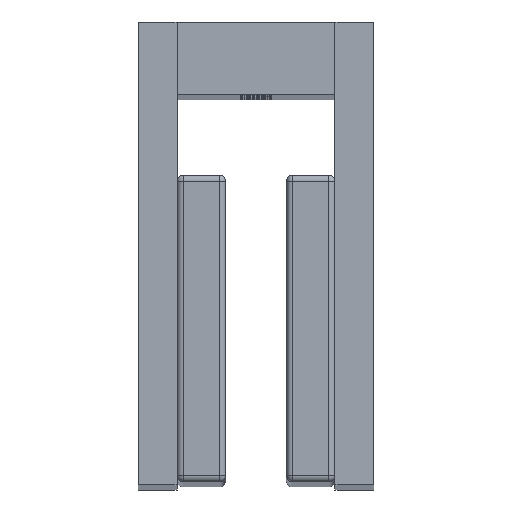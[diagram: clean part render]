
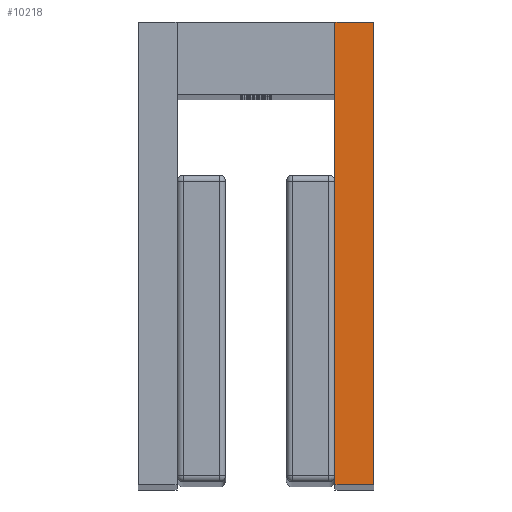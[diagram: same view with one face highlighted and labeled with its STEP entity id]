
A CAD part, top view. The second image highlights one B-rep face of the part: STEP entity #10218.
In plain terms, the highlighted planar face has unit normal (0, 0, 1).
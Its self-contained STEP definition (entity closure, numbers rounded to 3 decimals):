
#517 = CARTESIAN_POINT ( 'NONE',  ( 13., -70.2, 0. ) ) ;
#566 = CARTESIAN_POINT ( 'NONE',  ( 19.35, 6., 0. ) ) ;
#1757 = VERTEX_POINT ( 'NONE', #3181 ) ;
#3181 = CARTESIAN_POINT ( 'NONE',  ( 19.35, 6., 0. ) ) ;
#3620 = EDGE_CURVE ( 'Defeatured_0_2+Defeatured_0_37+Defeatured_0_3+Defeatured_0_0', #34386, #22645, #31456, .T. ) ;
#4752 = CARTESIAN_POINT ( 'NONE',  ( 19.35, -70.2, 0. ) ) ;
#5704 = CARTESIAN_POINT ( 'NONE',  ( 13., -70.2, 0. ) ) ;
#7183 = DIRECTION ( 'NONE',  ( 0., -1., 0. ) ) ;
#8361 = LINE ( 'NONE', #14290, #26243 ) ;
#9592 = DIRECTION ( 'NONE',  ( -1., 0., 0. ) ) ;
#10151 = LINE ( 'NONE', #566, #37608 ) ;
#10218 = ADVANCED_FACE ( 'Defeatured_0_2', ( #10630 ), #37916, .F. ) ;
#10402 = CARTESIAN_POINT ( 'NONE',  ( 13., -6., 0. ) ) ;
#10532 = AXIS2_PLACEMENT_3D ( 'NONE', #4752, #34537, #34169 ) ;
#10630 = FACE_OUTER_BOUND ( 'NONE', #34298, .T. ) ;
#11131 = ORIENTED_EDGE ( 'NONE', *, *, #28385, .F. ) ;
#11785 = VERTEX_POINT ( 'NONE', #21515 ) ;
#14290 = CARTESIAN_POINT ( 'NONE',  ( 19.35, -70.2, 0. ) ) ;
#15473 = VECTOR ( 'NONE', #31074, 1000. ) ;
#16101 = VERTEX_POINT ( 'NONE', #5704 ) ;
#18464 = EDGE_CURVE ( 'Defeatured_0_2+Defeatured_0_3+Defeatured_0_5+Defeatured_0_37', #1757, #34386, #10151, .T. ) ;
#18513 = VECTOR ( 'NONE', #7183, 1000. ) ;
#18601 = CARTESIAN_POINT ( 'NONE',  ( 19.35, -70.2, 0. ) ) ;
#19793 = ORIENTED_EDGE ( 'NONE', *, *, #24877, .T. ) ;
#21515 = CARTESIAN_POINT ( 'NONE',  ( 19.35, -70.2, 0. ) ) ;
#21920 = CARTESIAN_POINT ( 'NONE',  ( 13., -70.2, 0. ) ) ;
#22645 = VERTEX_POINT ( 'NONE', #10402 ) ;
#23722 = DIRECTION ( 'NONE',  ( 0., -1., 0. ) ) ;
#24014 = EDGE_CURVE ( 'Defeatured_0_1+Defeatured_0_2+Defeatured_0_5+Defeatured_0_0', #11785, #16101, #8361, .T. ) ;
#24521 = LINE ( 'NONE', #18601, #18513 ) ;
#24877 = EDGE_CURVE ( 'Defeatured_0_2+Defeatured_0_0+Defeatured_0_37+Defeatured_0_1', #22645, #16101, #27076, .T. ) ;
#25095 = VECTOR ( 'NONE', #23722, 1000. ) ;
#26243 = VECTOR ( 'NONE', #26299, 1000. ) ;
#26299 = DIRECTION ( 'NONE',  ( -1., 0., 0. ) ) ;
#26738 = ORIENTED_EDGE ( 'NONE', *, *, #18464, .T. ) ;
#27076 = LINE ( 'NONE', #517, #25095 ) ;
#28050 = ORIENTED_EDGE ( 'NONE', *, *, #24014, .F. ) ;
#28385 = EDGE_CURVE ( 'Defeatured_0_5+Defeatured_0_2+Defeatured_0_3+Defeatured_0_1', #1757, #11785, #24521, .T. ) ;
#30254 = CARTESIAN_POINT ( 'NONE',  ( 13., 6., 0. ) ) ;
#31074 = DIRECTION ( 'NONE',  ( 0., -1., 0. ) ) ;
#31456 = LINE ( 'NONE', #21920, #15473 ) ;
#34107 = ORIENTED_EDGE ( 'NONE', *, *, #3620, .T. ) ;
#34169 = DIRECTION ( 'NONE',  ( 1., 0., 0. ) ) ;
#34298 = EDGE_LOOP ( 'NONE', ( #34107, #19793, #28050, #11131, #26738 ) ) ;
#34386 = VERTEX_POINT ( 'NONE', #30254 ) ;
#34537 = DIRECTION ( 'NONE',  ( 0., 0., -1. ) ) ;
#37608 = VECTOR ( 'NONE', #9592, 1000. ) ;
#37916 = PLANE ( 'NONE',  #10532 ) ;
